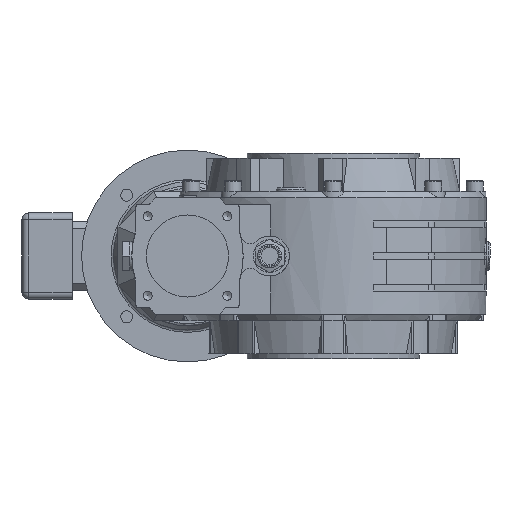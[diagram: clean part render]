
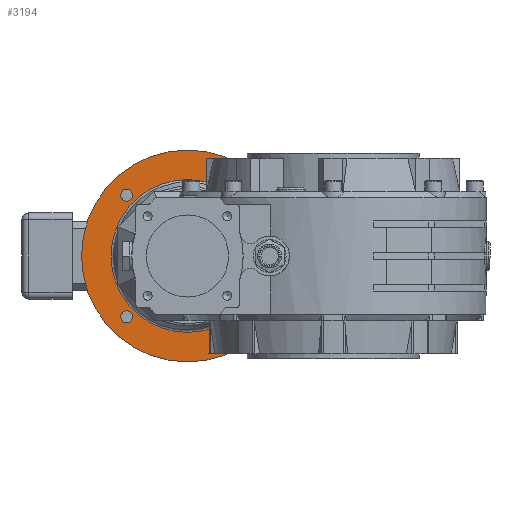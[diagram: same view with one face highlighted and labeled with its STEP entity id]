
A CAD part, left-side view. The second image highlights one B-rep face of the part: STEP entity #3194.
In plain terms, the highlighted planar face has unit normal (-1, 0, 0).
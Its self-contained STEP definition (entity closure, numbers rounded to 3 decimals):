
#3194 = ADVANCED_FACE( '', ( #6907, #6908, #6909, #6910, #6911, #6912 ), #6913, .F. );
#6907 = FACE_OUTER_BOUND( '', #11576, .T. );
#6908 = FACE_BOUND( '', #11577, .T. );
#6909 = FACE_BOUND( '', #11578, .T. );
#6910 = FACE_BOUND( '', #11579, .T. );
#6911 = FACE_BOUND( '', #11580, .T. );
#6912 = FACE_BOUND( '', #11581, .T. );
#6913 = PLANE( '', #11582 );
#11576 = EDGE_LOOP( '', ( #20362 ) );
#11577 = EDGE_LOOP( '', ( #20363 ) );
#11578 = EDGE_LOOP( '', ( #20364 ) );
#11579 = EDGE_LOOP( '', ( #20365 ) );
#11580 = EDGE_LOOP( '', ( #20366 ) );
#11581 = EDGE_LOOP( '', ( #20367 ) );
#11582 = AXIS2_PLACEMENT_3D( '', #20368, #20369, #20370 );
#20362 = ORIENTED_EDGE( '', *, *, #25726, .T. );
#20363 = ORIENTED_EDGE( '', *, *, #25537, .F. );
#20364 = ORIENTED_EDGE( '', *, *, #23492, .F. );
#20365 = ORIENTED_EDGE( '', *, *, #24988, .F. );
#20366 = ORIENTED_EDGE( '', *, *, #24133, .F. );
#20367 = ORIENTED_EDGE( '', *, *, #25608, .F. );
#20368 = CARTESIAN_POINT( '', ( 126., 169.5, 0. ) );
#20369 = DIRECTION( '', ( 1., 0., 0. ) );
#20370 = DIRECTION( '', ( 0., 0., 1. ) );
#23492 = EDGE_CURVE( '', #28058, #28058, #28059, .T. );
#24133 = EDGE_CURVE( '', #29051, #29051, #29052, .T. );
#24988 = EDGE_CURVE( '', #30295, #30295, #30296, .T. );
#25537 = EDGE_CURVE( '', #30973, #30973, #30974, .T. );
#25608 = EDGE_CURVE( '', #31060, #31060, #31061, .T. );
#25726 = EDGE_CURVE( '', #31202, #31202, #31203, .T. );
#28058 = VERTEX_POINT( '', #34741 );
#28059 = CIRCLE( '', #34742, 4.5 );
#29051 = VERTEX_POINT( '', #36381 );
#29052 = CIRCLE( '', #36382, 4.5 );
#30295 = VERTEX_POINT( '', #38423 );
#30296 = CIRCLE( '', #38424, 4.5 );
#30973 = VERTEX_POINT( '', #39524 );
#30974 = CIRCLE( '', #39525, 4.5 );
#31060 = VERTEX_POINT( '', #39666 );
#31061 = CIRCLE( '', #39667, 57.736 );
#31202 = VERTEX_POINT( '', #39879 );
#31203 = CIRCLE( '', #39880, 80. );
#34741 = CARTESIAN_POINT( '', ( 126., 64.038, 50.462 ) );
#34742 = AXIS2_PLACEMENT_3D( '', #41859, #41860, #41861 );
#36381 = CARTESIAN_POINT( '', ( 126., 155.962, 50.462 ) );
#36382 = AXIS2_PLACEMENT_3D( '', #42608, #42609, #42610 );
#38423 = CARTESIAN_POINT( '', ( 126., 155.962, -41.462 ) );
#38424 = AXIS2_PLACEMENT_3D( '', #43697, #43698, #43699 );
#39524 = CARTESIAN_POINT( '', ( 126., 64.038, -41.462 ) );
#39525 = AXIS2_PLACEMENT_3D( '', #44173, #44174, #44175 );
#39666 = CARTESIAN_POINT( '', ( 126., 52.264, 0. ) );
#39667 = AXIS2_PLACEMENT_3D( '', #44273, #44274, #44275 );
#39879 = CARTESIAN_POINT( '', ( 126., 30., 0. ) );
#39880 = AXIS2_PLACEMENT_3D( '', #44366, #44367, #44368 );
#41859 = CARTESIAN_POINT( '', ( 126., 64.038, 45.962 ) );
#41860 = DIRECTION( '', ( -1., 0., 0. ) );
#41861 = DIRECTION( '', ( 0., 0., 1. ) );
#42608 = CARTESIAN_POINT( '', ( 126., 155.962, 45.962 ) );
#42609 = DIRECTION( '', ( -1., 0., 0. ) );
#42610 = DIRECTION( '', ( 0., 0., 1. ) );
#43697 = CARTESIAN_POINT( '', ( 126., 155.962, -45.962 ) );
#43698 = DIRECTION( '', ( -1., 0., 0. ) );
#43699 = DIRECTION( '', ( 0., 0., 1. ) );
#44173 = CARTESIAN_POINT( '', ( 126., 64.038, -45.962 ) );
#44174 = DIRECTION( '', ( -1., 0., 0. ) );
#44175 = DIRECTION( '', ( 0., 0., 1. ) );
#44273 = CARTESIAN_POINT( '', ( 126., 110., 0. ) );
#44274 = DIRECTION( '', ( -1., 0., 0. ) );
#44275 = DIRECTION( '', ( 0., -1., 0. ) );
#44366 = CARTESIAN_POINT( '', ( 126., 110., 0. ) );
#44367 = DIRECTION( '', ( -1., 0., 0. ) );
#44368 = DIRECTION( '', ( 0., -1., 0. ) );
